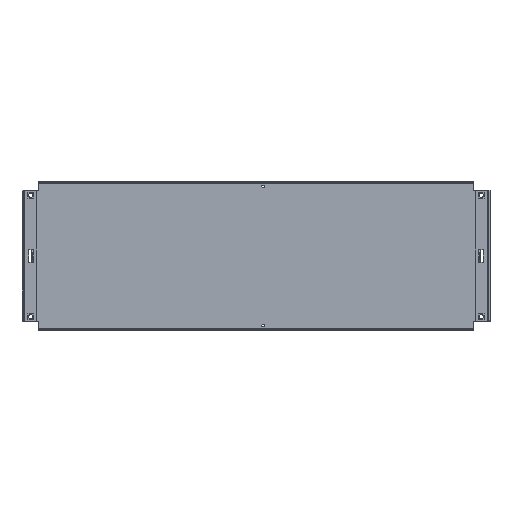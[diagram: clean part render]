
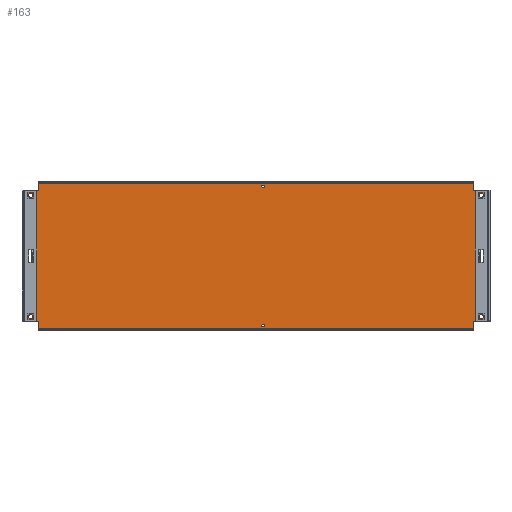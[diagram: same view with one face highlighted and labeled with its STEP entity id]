
A CAD part, top view. The second image highlights one B-rep face of the part: STEP entity #163.
In plain terms, the highlighted planar face has unit normal (0, 0, 1).
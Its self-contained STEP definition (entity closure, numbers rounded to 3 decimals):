
#163=ADVANCED_FACE('',(#1535,#1537,#1539,#1541,#1543,#1545,#1547),#1549,.T.);
#1535=FACE_BOUND('',#1536,.T.);
#1536=EDGE_LOOP('',(#2639,#2640,#2641,#2642,#2643,#2644,#2645,#2646,#2647,#2648,
#2649,#2650,#2651,#2652,#2653,#2654,#2655,#2656,#2657,#2658,#2659,#2660,#2661,#2662,
#2663,#2664,#2665,#2666));
#1537=FACE_BOUND('',#1538,.T.);
#1538=EDGE_LOOP('',(#2667));
#1539=FACE_BOUND('',#1540,.T.);
#1540=EDGE_LOOP('',(#2668));
#1541=FACE_BOUND('',#1542,.T.);
#1542=EDGE_LOOP('',(#2669));
#1543=FACE_BOUND('',#1544,.T.);
#1544=EDGE_LOOP('',(#2670));
#1545=FACE_BOUND('',#1546,.T.);
#1546=EDGE_LOOP('',(#2671));
#1547=FACE_BOUND('',#1548,.T.);
#1548=EDGE_LOOP('',(#2672));
#1549=PLANE('',#1550);
#1550=AXIS2_PLACEMENT_3D('',#1551,#1552,#1553);
#1551=CARTESIAN_POINT('',(0.,0.,0.));
#1552=DIRECTION('',(0.,0.,1.));
#1553=DIRECTION('',(1.,0.,0.));
#2639=ORIENTED_EDGE('',*,*,#3414,.F.);
#2640=ORIENTED_EDGE('',*,*,#3415,.T.);
#2641=ORIENTED_EDGE('',*,*,#3381,.T.);
#2642=ORIENTED_EDGE('',*,*,#3416,.T.);
#2643=ORIENTED_EDGE('',*,*,#3417,.T.);
#2644=ORIENTED_EDGE('',*,*,#3418,.F.);
#2645=ORIENTED_EDGE('',*,*,#3419,.F.);
#2646=ORIENTED_EDGE('',*,*,#3420,.F.);
#2647=ORIENTED_EDGE('',*,*,#3421,.T.);
#2648=ORIENTED_EDGE('',*,*,#3422,.T.);
#2649=ORIENTED_EDGE('',*,*,#3423,.T.);
#2650=ORIENTED_EDGE('',*,*,#3424,.T.);
#2651=ORIENTED_EDGE('',*,*,#3425,.F.);
#2652=ORIENTED_EDGE('',*,*,#3426,.T.);
#2653=ORIENTED_EDGE('',*,*,#3427,.T.);
#2654=ORIENTED_EDGE('',*,*,#3428,.T.);
#2655=ORIENTED_EDGE('',*,*,#3429,.T.);
#2656=ORIENTED_EDGE('',*,*,#3430,.T.);
#2657=ORIENTED_EDGE('',*,*,#3431,.T.);
#2658=ORIENTED_EDGE('',*,*,#3432,.F.);
#2659=ORIENTED_EDGE('',*,*,#3433,.F.);
#2660=ORIENTED_EDGE('',*,*,#3434,.F.);
#2661=ORIENTED_EDGE('',*,*,#3387,.T.);
#2662=ORIENTED_EDGE('',*,*,#3435,.T.);
#2663=ORIENTED_EDGE('',*,*,#3436,.F.);
#2664=ORIENTED_EDGE('',*,*,#3437,.F.);
#2665=ORIENTED_EDGE('',*,*,#3438,.F.);
#2666=ORIENTED_EDGE('',*,*,#3377,.F.);
#2667=ORIENTED_EDGE('',*,*,#3365,.F.);
#2668=ORIENTED_EDGE('',*,*,#3367,.T.);
#2669=ORIENTED_EDGE('',*,*,#3369,.T.);
#2670=ORIENTED_EDGE('',*,*,#3371,.F.);
#2671=ORIENTED_EDGE('',*,*,#3373,.T.);
#2672=ORIENTED_EDGE('',*,*,#3375,.F.);
#3365=EDGE_CURVE('',#3757,#3757,#3758,.T.);
#3367=EDGE_CURVE('',#3761,#3761,#3762,.T.);
#3369=EDGE_CURVE('',#3765,#3765,#3766,.T.);
#3371=EDGE_CURVE('',#3769,#3769,#3770,.T.);
#3373=EDGE_CURVE('',#3773,#3773,#3774,.T.);
#3375=EDGE_CURVE('',#3777,#3777,#3778,.T.);
#3377=EDGE_CURVE('',#3781,#3782,#3783,.T.);
#3381=EDGE_CURVE('',#3789,#3790,#3791,.T.);
#3387=EDGE_CURVE('',#3802,#3800,#3803,.T.);
#3414=EDGE_CURVE('',#3852,#3781,#3853,.T.);
#3415=EDGE_CURVE('',#3852,#3789,#3854,.T.);
#3416=EDGE_CURVE('',#3790,#3855,#3856,.T.);
#3417=EDGE_CURVE('',#3855,#3857,#3858,.T.);
#3418=EDGE_CURVE('',#3859,#3857,#3860,.T.);
#3419=EDGE_CURVE('',#3861,#3859,#3862,.T.);
#3420=EDGE_CURVE('',#3863,#3861,#3864,.T.);
#3421=EDGE_CURVE('',#3863,#3865,#3866,.T.);
#3422=EDGE_CURVE('',#3865,#3867,#3868,.T.);
#3423=EDGE_CURVE('',#3867,#3869,#3870,.T.);
#3424=EDGE_CURVE('',#3869,#3871,#3872,.T.);
#3425=EDGE_CURVE('',#3873,#3871,#3874,.T.);
#3426=EDGE_CURVE('',#3873,#3875,#3876,.T.);
#3427=EDGE_CURVE('',#3875,#3877,#3878,.T.);
#3428=EDGE_CURVE('',#3877,#3879,#3880,.T.);
#3429=EDGE_CURVE('',#3879,#3881,#3882,.T.);
#3430=EDGE_CURVE('',#3881,#3883,#3884,.T.);
#3431=EDGE_CURVE('',#3883,#3885,#3886,.T.);
#3432=EDGE_CURVE('',#3887,#3885,#3888,.T.);
#3433=EDGE_CURVE('',#3889,#3887,#3890,.T.);
#3434=EDGE_CURVE('',#3802,#3889,#3891,.T.);
#3435=EDGE_CURVE('',#3800,#3892,#3893,.T.);
#3436=EDGE_CURVE('',#3894,#3892,#3895,.T.);
#3437=EDGE_CURVE('',#3896,#3894,#3897,.T.);
#3438=EDGE_CURVE('',#3782,#3896,#3898,.T.);
#3757=VERTEX_POINT('',#4401);
#3758=CIRCLE('',#4402,2.3);
#3761=VERTEX_POINT('',#4411);
#3762=CIRCLE('',#4412,2.3);
#3765=VERTEX_POINT('',#4421);
#3766=CIRCLE('',#4422,3.65);
#3769=VERTEX_POINT('',#4431);
#3770=CIRCLE('',#4432,3.65);
#3773=VERTEX_POINT('',#4441);
#3774=CIRCLE('',#4442,3.65);
#3777=VERTEX_POINT('',#4451);
#3778=CIRCLE('',#4452,3.65);
#3781=VERTEX_POINT('',#4461);
#3782=VERTEX_POINT('',#4462);
#3783=LINE('',#4463,#4464);
#3789=VERTEX_POINT('',#4477);
#3790=VERTEX_POINT('',#4478);
#3791=LINE('',#4479,#4480);
#3800=VERTEX_POINT('',#4498);
#3802=VERTEX_POINT('',#4502);
#3803=LINE('',#4503,#4504);
#3852=VERTEX_POINT('',#4606);
#3853=LINE('',#4607,#4608);
#3854=LINE('',#4610,#4611);
#3855=VERTEX_POINT('',#4613);
#3856=LINE('',#4614,#4615);
#3857=VERTEX_POINT('',#4617);
#3858=LINE('',#4618,#4619);
#3859=VERTEX_POINT('',#4621);
#3860=LINE('',#4622,#4623);
#3861=VERTEX_POINT('',#4625);
#3862=LINE('',#4626,#4627);
#3863=VERTEX_POINT('',#4629);
#3864=LINE('',#4630,#4631);
#3865=VERTEX_POINT('',#4633);
#3866=LINE('',#4634,#4635);
#3867=VERTEX_POINT('',#4637);
#3868=LINE('',#4638,#4639);
#3869=VERTEX_POINT('',#4641);
#3870=LINE('',#4642,#4643);
#3871=VERTEX_POINT('',#4645);
#3872=LINE('',#4646,#4647);
#3873=VERTEX_POINT('',#4649);
#3874=LINE('',#4650,#4651);
#3875=VERTEX_POINT('',#4653);
#3876=LINE('',#4654,#4655);
#3877=VERTEX_POINT('',#4657);
#3878=LINE('',#4658,#4659);
#3879=VERTEX_POINT('',#4661);
#3880=LINE('',#4662,#4663);
#3881=VERTEX_POINT('',#4665);
#3882=LINE('',#4666,#4667);
#3883=VERTEX_POINT('',#4669);
#3884=LINE('',#4670,#4671);
#3885=VERTEX_POINT('',#4673);
#3886=LINE('',#4674,#4675);
#3887=VERTEX_POINT('',#4677);
#3888=LINE('',#4678,#4679);
#3889=VERTEX_POINT('',#4681);
#3890=LINE('',#4682,#4683);
#3891=LINE('',#4685,#4686);
#3892=VERTEX_POINT('',#4688);
#3893=LINE('',#4689,#4690);
#3894=VERTEX_POINT('',#4692);
#3895=LINE('',#4693,#4694);
#3896=VERTEX_POINT('',#4696);
#3897=LINE('',#4697,#4698);
#3898=LINE('',#4700,#4701);
#4401=CARTESIAN_POINT('',(9.7,114.3,0.));
#4402=AXIS2_PLACEMENT_3D('',#4403,#4404,#4405);
#4403=CARTESIAN_POINT('',(12.,114.3,0.));
#4404=DIRECTION('',(0.,0.,1.));
#4405=DIRECTION('',(-1.,0.,0.));
#4411=CARTESIAN_POINT('',(9.7,-114.3,0.));
#4412=AXIS2_PLACEMENT_3D('',#4413,#4414,#4415);
#4413=CARTESIAN_POINT('',(12.,-114.3,0.));
#4414=DIRECTION('',(0.,0.,-1.));
#4415=DIRECTION('',(1.,0.,0.));
#4421=CARTESIAN_POINT('',(366.45,100.,0.));
#4422=AXIS2_PLACEMENT_3D('',#4423,#4424,#4425);
#4423=CARTESIAN_POINT('',(370.1,100.,0.));
#4424=DIRECTION('',(0.,0.,-1.));
#4425=DIRECTION('',(1.,0.,0.));
#4431=CARTESIAN_POINT('',(366.45,-100.,0.));
#4432=AXIS2_PLACEMENT_3D('',#4433,#4434,#4435);
#4433=CARTESIAN_POINT('',(370.1,-100.,0.));
#4434=DIRECTION('',(0.,0.,1.));
#4435=DIRECTION('',(-1.,0.,0.));
#4441=CARTESIAN_POINT('',(-373.75,-100.,0.));
#4442=AXIS2_PLACEMENT_3D('',#4443,#4444,#4445);
#4443=CARTESIAN_POINT('',(-370.1,-100.,0.));
#4444=DIRECTION('',(0.,0.,-1.));
#4445=DIRECTION('',(1.,0.,0.));
#4451=CARTESIAN_POINT('',(-373.75,100.,0.));
#4452=AXIS2_PLACEMENT_3D('',#4453,#4454,#4455);
#4453=CARTESIAN_POINT('',(-370.1,100.,0.));
#4454=DIRECTION('',(0.,0.,1.));
#4455=DIRECTION('',(-1.,0.,0.));
#4461=CARTESIAN_POINT('',(365.2,16.,0.));
#4462=CARTESIAN_POINT('',(365.2,7.5,0.));
#4463=CARTESIAN_POINT('',(365.2,16.,0.));
#4464=VECTOR('',#4465,1.);
#4465=DIRECTION('',(0.,-1.,0.));
#4477=CARTESIAN_POINT('',(377.6,23.07,0.));
#4478=CARTESIAN_POINT('',(377.6,107.25,0.));
#4479=CARTESIAN_POINT('',(377.6,23.07,0.));
#4480=VECTOR('',#4481,1.);
#4481=DIRECTION('',(0.,1.,0.));
#4498=CARTESIAN_POINT('',(377.6,-23.07,0.));
#4502=CARTESIAN_POINT('',(377.6,-107.25,0.));
#4503=CARTESIAN_POINT('',(377.6,-107.25,0.));
#4504=VECTOR('',#4505,1.);
#4505=DIRECTION('',(0.,1.,0.));
#4606=CARTESIAN_POINT('',(370.53,16.,0.));
#4607=CARTESIAN_POINT('',(370.53,16.,0.));
#4608=VECTOR('',#4609,1.);
#4609=DIRECTION('',(-1.,0.,0.));
#4610=CARTESIAN_POINT('',(370.53,16.,0.));
#4611=VECTOR('',#4612,1.);
#4612=DIRECTION('',(0.707,0.707,0.));
#4613=CARTESIAN_POINT('',(357.6,107.25,0.));
#4614=CARTESIAN_POINT('',(377.6,107.25,0.));
#4615=VECTOR('',#4616,1.);
#4616=DIRECTION('',(-1.,0.,0.));
#4617=CARTESIAN_POINT('',(357.6,119.1,0.));
#4618=CARTESIAN_POINT('',(357.6,107.25,0.));
#4619=VECTOR('',#4620,1.);
#4620=DIRECTION('',(0.,1.,0.));
#4621=CARTESIAN_POINT('',(-357.6,119.1,0.));
#4622=CARTESIAN_POINT('',(-357.6,119.1,0.));
#4623=VECTOR('',#4624,1.);
#4624=DIRECTION('',(1.,0.,0.));
#4625=CARTESIAN_POINT('',(-357.6,107.25,0.));
#4626=CARTESIAN_POINT('',(-357.6,107.25,0.));
#4627=VECTOR('',#4628,1.);
#4628=DIRECTION('',(0.,1.,0.));
#4629=CARTESIAN_POINT('',(-377.6,107.25,0.));
#4630=CARTESIAN_POINT('',(-377.6,107.25,0.));
#4631=VECTOR('',#4632,1.);
#4632=DIRECTION('',(1.,0.,0.));
#4633=CARTESIAN_POINT('',(-377.6,23.07,0.));
#4634=CARTESIAN_POINT('',(-377.6,107.25,0.));
#4635=VECTOR('',#4636,1.);
#4636=DIRECTION('',(0.,-1.,0.));
#4637=CARTESIAN_POINT('',(-370.53,16.,0.));
#4638=CARTESIAN_POINT('',(-377.6,23.07,0.));
#4639=VECTOR('',#4640,1.);
#4640=DIRECTION('',(0.707,-0.707,0.));
#4641=CARTESIAN_POINT('',(-365.2,16.,0.));
#4642=CARTESIAN_POINT('',(-370.53,16.,0.));
#4643=VECTOR('',#4644,1.);
#4644=DIRECTION('',(1.,0.,0.));
#4645=CARTESIAN_POINT('',(-365.2,7.5,0.));
#4646=CARTESIAN_POINT('',(-365.2,16.,0.));
#4647=VECTOR('',#4648,1.);
#4648=DIRECTION('',(0.,-1.,0.));
#4649=CARTESIAN_POINT('',(-365.2,-7.5,0.));
#4650=CARTESIAN_POINT('',(-365.2,-7.5,0.));
#4651=VECTOR('',#4652,1.);
#4652=DIRECTION('',(0.,1.,0.));
#4653=CARTESIAN_POINT('',(-365.2,-16.,0.));
#4654=CARTESIAN_POINT('',(-365.2,-7.5,0.));
#4655=VECTOR('',#4656,1.);
#4656=DIRECTION('',(0.,-1.,0.));
#4657=CARTESIAN_POINT('',(-370.53,-16.,0.));
#4658=CARTESIAN_POINT('',(-365.2,-16.,0.));
#4659=VECTOR('',#4660,1.);
#4660=DIRECTION('',(-1.,0.,0.));
#4661=CARTESIAN_POINT('',(-377.6,-23.07,0.));
#4662=CARTESIAN_POINT('',(-370.53,-16.,0.));
#4663=VECTOR('',#4664,1.);
#4664=DIRECTION('',(-0.707,-0.707,0.));
#4665=CARTESIAN_POINT('',(-377.6,-107.25,0.));
#4666=CARTESIAN_POINT('',(-377.6,-23.07,0.));
#4667=VECTOR('',#4668,1.);
#4668=DIRECTION('',(0.,-1.,0.));
#4669=CARTESIAN_POINT('',(-357.6,-107.25,0.));
#4670=CARTESIAN_POINT('',(-377.6,-107.25,0.));
#4671=VECTOR('',#4672,1.);
#4672=DIRECTION('',(1.,0.,0.));
#4673=CARTESIAN_POINT('',(-357.6,-119.1,0.));
#4674=CARTESIAN_POINT('',(-357.6,-107.25,0.));
#4675=VECTOR('',#4676,1.);
#4676=DIRECTION('',(0.,-1.,0.));
#4677=CARTESIAN_POINT('',(357.6,-119.1,0.));
#4678=CARTESIAN_POINT('',(357.6,-119.1,0.));
#4679=VECTOR('',#4680,1.);
#4680=DIRECTION('',(-1.,0.,0.));
#4681=CARTESIAN_POINT('',(357.6,-107.25,0.));
#4682=CARTESIAN_POINT('',(357.6,-107.25,0.));
#4683=VECTOR('',#4684,1.);
#4684=DIRECTION('',(0.,-1.,0.));
#4685=CARTESIAN_POINT('',(377.6,-107.25,0.));
#4686=VECTOR('',#4687,1.);
#4687=DIRECTION('',(-1.,0.,0.));
#4688=CARTESIAN_POINT('',(370.53,-16.,0.));
#4689=CARTESIAN_POINT('',(377.6,-23.07,0.));
#4690=VECTOR('',#4691,1.);
#4691=DIRECTION('',(-0.707,0.707,0.));
#4692=CARTESIAN_POINT('',(365.2,-16.,0.));
#4693=CARTESIAN_POINT('',(365.2,-16.,0.));
#4694=VECTOR('',#4695,1.);
#4695=DIRECTION('',(1.,0.,0.));
#4696=CARTESIAN_POINT('',(365.2,-7.5,0.));
#4697=CARTESIAN_POINT('',(365.2,-7.5,0.));
#4698=VECTOR('',#4699,1.);
#4699=DIRECTION('',(0.,-1.,0.));
#4700=CARTESIAN_POINT('',(365.2,7.5,0.));
#4701=VECTOR('',#4702,1.);
#4702=DIRECTION('',(0.,-1.,0.));
